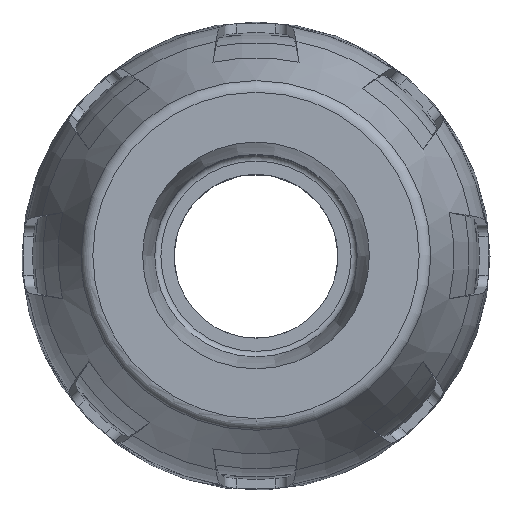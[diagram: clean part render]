
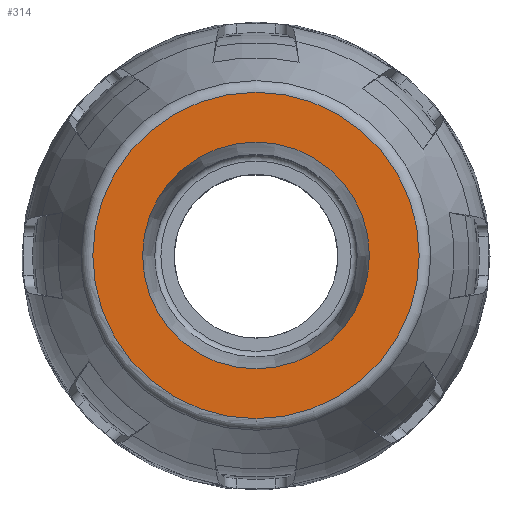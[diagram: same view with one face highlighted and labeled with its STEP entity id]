
A CAD part, top view. The second image highlights one B-rep face of the part: STEP entity #314.
In plain terms, the highlighted planar face has unit normal (0, 0, 1).
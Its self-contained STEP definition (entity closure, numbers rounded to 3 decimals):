
#314 = ADVANCED_FACE( '', ( #827, #828 ), #829, .F. );
#827 = FACE_BOUND( '', #1606, .T. );
#828 = FACE_OUTER_BOUND( '', #1607, .T. );
#829 = PLANE( '', #1608 );
#1606 = EDGE_LOOP( '', ( #3777 ) );
#1607 = EDGE_LOOP( '', ( #3778 ) );
#1608 = AXIS2_PLACEMENT_3D( '', #3779, #3780, #3781 );
#3777 = ORIENTED_EDGE( '', *, *, #5724, .T. );
#3778 = ORIENTED_EDGE( '', *, *, #5725, .F. );
#3779 = CARTESIAN_POINT( '', ( -16.297, 0., 38.05 ) );
#3780 = DIRECTION( '', ( 0., 0., -1. ) );
#3781 = DIRECTION( '', ( -1., 0., 0. ) );
#5724 = EDGE_CURVE( '', #6640, #6640, #6641, .F. );
#5725 = EDGE_CURVE( '', #6642, #6642, #6643, .F. );
#6640 = VERTEX_POINT( '', #8122 );
#6641 = CIRCLE( '', #8123, 9.237 );
#6642 = VERTEX_POINT( '', #8124 );
#6643 = CIRCLE( '', #8125, 13.295 );
#8122 = CARTESIAN_POINT( '', ( -9.237, 0., 38.05 ) );
#8123 = AXIS2_PLACEMENT_3D( '', #10468, #10469, #10470 );
#8124 = CARTESIAN_POINT( '', ( -13.295, 0., 38.05 ) );
#8125 = AXIS2_PLACEMENT_3D( '', #10471, #10472, #10473 );
#10468 = CARTESIAN_POINT( '', ( 0., 0., 38.05 ) );
#10469 = DIRECTION( '', ( 0., 0., 1. ) );
#10470 = DIRECTION( '', ( -1., 0., 0. ) );
#10471 = CARTESIAN_POINT( '', ( 0., 0., 38.05 ) );
#10472 = DIRECTION( '', ( 0., 0., 1. ) );
#10473 = DIRECTION( '', ( -1., 0., 0. ) );
